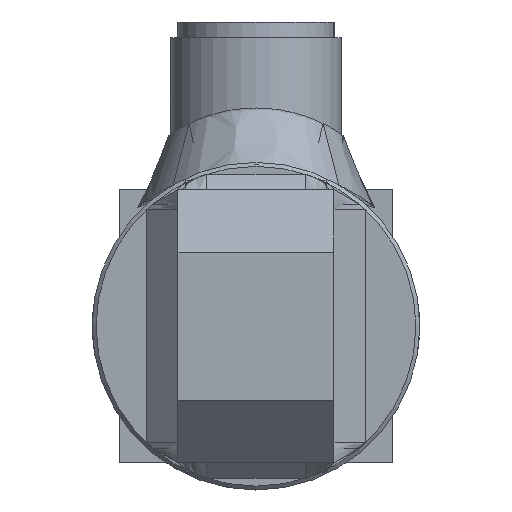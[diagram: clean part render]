
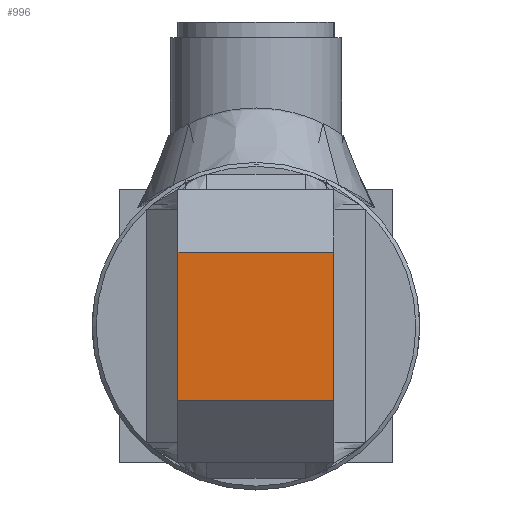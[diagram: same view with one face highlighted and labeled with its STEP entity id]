
A CAD part, left-side view. The second image highlights one B-rep face of the part: STEP entity #996.
In plain terms, the highlighted planar face has unit normal (-1, 0, 0) as drawn and (1, 0, 0) by its records, which use the part's own axes.
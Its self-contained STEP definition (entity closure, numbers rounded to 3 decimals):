
#996 = ADVANCED_FACE( '', ( #1795 ), #1796, .F. );
#1795 = FACE_OUTER_BOUND( '', #3097, .T. );
#1796 = PLANE( '', #3098 );
#3097 = EDGE_LOOP( '', ( #6672, #6673, #6674, #6675 ) );
#3098 = AXIS2_PLACEMENT_3D( '', #6676, #6677, #6678 );
#6672 = ORIENTED_EDGE( '', *, *, #8394, .T. );
#6673 = ORIENTED_EDGE( '', *, *, #8395, .T. );
#6674 = ORIENTED_EDGE( '', *, *, #8396, .T. );
#6675 = ORIENTED_EDGE( '', *, *, #8397, .T. );
#6676 = CARTESIAN_POINT( '', ( 42., -10., 17.5 ) );
#6677 = DIRECTION( '', ( -1., 0., 0. ) );
#6678 = DIRECTION( '', ( 0., -1., 0. ) );
#8394 = EDGE_CURVE( '', #9493, #9494, #9495, .T. );
#8395 = EDGE_CURVE( '', #9494, #9496, #9497, .T. );
#8396 = EDGE_CURVE( '', #9496, #9498, #9499, .T. );
#8397 = EDGE_CURVE( '', #9498, #9493, #9500, .T. );
#9493 = VERTEX_POINT( '', #10729 );
#9494 = VERTEX_POINT( '', #10730 );
#9495 = LINE( '', #10731, #10732 );
#9496 = VERTEX_POINT( '', #10733 );
#9497 = LINE( '', #10734, #10735 );
#9498 = VERTEX_POINT( '', #10736 );
#9499 = LINE( '', #10737, #10738 );
#9500 = LINE( '', #10739, #10740 );
#10729 = CARTESIAN_POINT( '', ( 42., 10., -9.5 ) );
#10730 = CARTESIAN_POINT( '', ( 42., 10., 9.5 ) );
#10731 = CARTESIAN_POINT( '', ( 42., 10., -17.5 ) );
#10732 = VECTOR( '', #12944, 1000. );
#10733 = CARTESIAN_POINT( '', ( 42., -10., 9.5 ) );
#10734 = CARTESIAN_POINT( '', ( 42., -10., 9.5 ) );
#10735 = VECTOR( '', #12945, 1000. );
#10736 = CARTESIAN_POINT( '', ( 42., -10., -9.5 ) );
#10737 = CARTESIAN_POINT( '', ( 42., -10., 17.5 ) );
#10738 = VECTOR( '', #12946, 1000. );
#10739 = CARTESIAN_POINT( '', ( 42., -10., -9.5 ) );
#10740 = VECTOR( '', #12947, 1000. );
#12944 = DIRECTION( '', ( 0., 0., 1. ) );
#12945 = DIRECTION( '', ( 0., -1., 0. ) );
#12946 = DIRECTION( '', ( 0., 0., -1. ) );
#12947 = DIRECTION( '', ( 0., 1., 0. ) );
